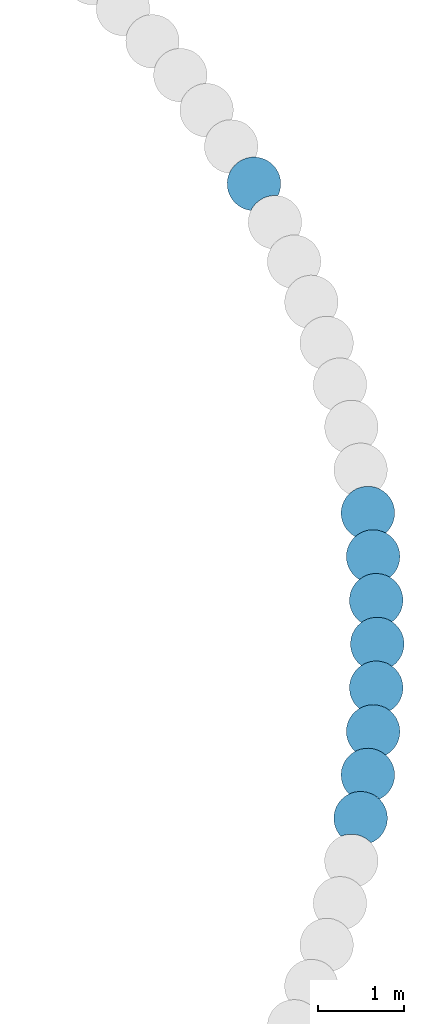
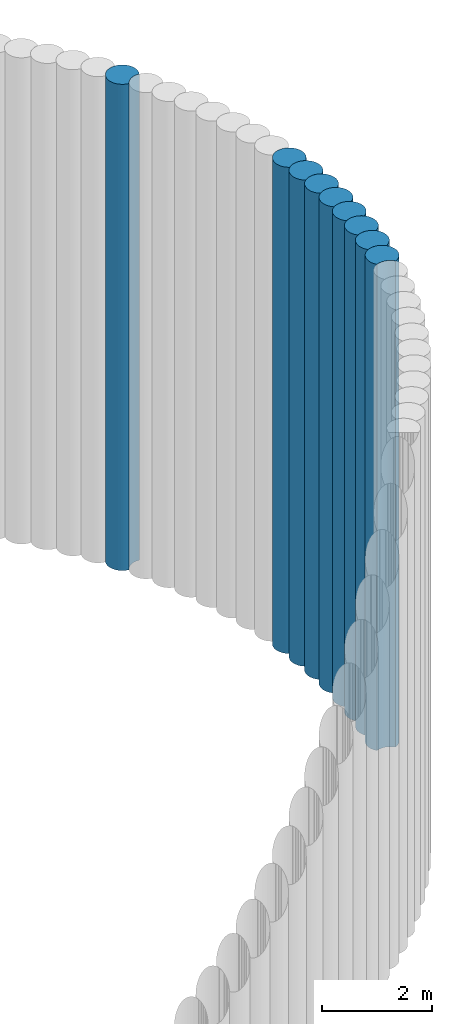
# One storey, part 9 of 16: 9 slabs.
"""IFC2X3 building model written with IfcOpenShell, lengths in centimetres."""

from ifc_helpers import new_model, entity, si_unit, converted_unit, derived_unit, direction, frame, frame_2d, origin, place, context, subcontext, project, spatial, polyline, circle_curve, parameter, trimmed, segment, composite_curve, outline, extrude, material, element, save


model = new_model("IFC2X3")

# Units and contexts
model_context = context("Model", 3, precision=0.001, world=origin(), true_north=direction((6.12303176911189e-17, 1.0)))
body_context = subcontext(model_context, "Body", "Model", "MODEL_VIEW")
ifc_project = project(units=[si_unit("LENGTHUNIT", "METRE", prefix="CENTI"), si_unit("AREAUNIT", "SQUARE_METRE"), si_unit("VOLUMEUNIT", "CUBIC_METRE"), converted_unit("PLANEANGLEUNIT", "DEGREE", entity("IfcRatioMeasure", 0.0174532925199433), si_unit("PLANEANGLEUNIT", "RADIAN"), dimensions=[0, 0, 0, 0, 0, 0, 0]), si_unit("MASSUNIT", "GRAM", prefix="KILO"), derived_unit("MASSDENSITYUNIT", [(si_unit("MASSUNIT", "GRAM", prefix="KILO"), 1), (si_unit("LENGTHUNIT", "METRE"), -3)]), si_unit("TIMEUNIT", "SECOND"), si_unit("FREQUENCYUNIT", "HERTZ"), si_unit("THERMODYNAMICTEMPERATUREUNIT", "DEGREE_CELSIUS"), derived_unit("THERMALTRANSMITTANCEUNIT", [(si_unit("MASSUNIT", "GRAM", prefix="KILO"), 1), (si_unit("THERMODYNAMICTEMPERATUREUNIT", "KELVIN"), -1), (si_unit("TIMEUNIT", "SECOND"), -3)]), derived_unit("VOLUMETRICFLOWRATEUNIT", [(si_unit("LENGTHUNIT", "METRE"), 3), (si_unit("TIMEUNIT", "SECOND"), -1)]), si_unit("ELECTRICCURRENTUNIT", "AMPERE"), si_unit("ELECTRICVOLTAGEUNIT", "VOLT"), si_unit("POWERUNIT", "WATT"), si_unit("FORCEUNIT", "NEWTON", prefix="KILO"), si_unit("ILLUMINANCEUNIT", "LUX"), si_unit("LUMINOUSFLUXUNIT", "LUMEN"), si_unit("LUMINOUSINTENSITYUNIT", "CANDELA"), derived_unit("USERDEFINED", [(si_unit("MASSUNIT", "GRAM", prefix="KILO"), -1), (si_unit("LENGTHUNIT", "METRE"), -2), (si_unit("TIMEUNIT", "SECOND"), 3), (si_unit("LUMINOUSFLUXUNIT", "LUMEN"), 1)]), derived_unit("LINEARVELOCITYUNIT", [(si_unit("LENGTHUNIT", "METRE"), 1), (si_unit("TIMEUNIT", "SECOND"), -1)]), si_unit("PRESSUREUNIT", "PASCAL"), derived_unit("USERDEFINED", [(si_unit("LENGTHUNIT", "METRE"), -2), (si_unit("MASSUNIT", "GRAM", prefix="KILO"), 1), (si_unit("TIMEUNIT", "SECOND"), -2)])], contexts=[model_context])

# Site, building, storey
site_placement = place(None, origin())
site = spatial("IfcSite", under=ifc_project, at=site_placement, Name="Default", CompositionType="ELEMENT")
building_placement = place(site_placement, origin())
building = spatial("IfcBuilding", under=site, at=building_placement, CompositionType="ELEMENT")
storey_placement = place(building_placement, frame((0.0, 0.0, -984.0)))
storey = spatial("IfcBuildingStorey", under=building, at=storey_placement, Name="Niveau Fond de fosse", CompositionType="ELEMENT", Elevation=-984.000000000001)

# Slabs
ifc_material = material(Name="Maçonnerie - Béton coulé sur place")
slab_1_placement = place(storey_placement, origin())
element("IfcSlab", 1, at=slab_1_placement, inside=storey, material=ifc_material, Name="Pieu béton - JBTP:600mm 2", ObjectType="Pieu béton - JBTP:600mm 2", PredefinedType="BASESLAB", context=body_context, shape_type="SweptSolid", body=[
    extrude(outline(composite_curve([segment(trimmed(circle_curve(frame_2d((1.18354648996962, -14.7318661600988), x_axis=(1.0, 0.0)), 30.9999999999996), [parameter(180.0)], [parameter(207.444291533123)], True, "PARAMETER"), True, "CONTINUOUS"), segment(trimmed(circle_curve(frame_2d((-22.223663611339, -59.7464676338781), x_axis=(0.998867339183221, -0.0475819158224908)), 30.9999999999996), [parameter(30.1715642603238)], [parameter(100.334884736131)], True, "PARAMETER"), False, "CONTINUOUS"), segment(trimmed(circle_curve(frame_2d((1.18354648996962, -14.7318661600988), x_axis=(1.0, 0.0)), 30.9999999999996), [parameter(277.607612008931)], [parameter(4.07110999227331e-13)], True, "PARAMETER"), True, "CONTINUOUS"), segment(polyline([(32.183546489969, -14.7318661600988), (31.7068413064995, -9.31628922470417)]), True, "CONTINUOUS"), segment(polyline([(31.7068413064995, -9.31628922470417), (30.2921459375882, -4.06934121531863)]), True, "CONTINUOUS"), segment(polyline([(30.2921459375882, -4.06934121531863), (27.9815446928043, 0.850722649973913)]), True, "CONTINUOUS"), segment(polyline([(27.9815446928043, 0.850722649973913), (24.8625540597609, 5.27574740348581)]), True, "CONTINUOUS"), segment(polyline([(24.8625540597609, 5.27574740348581), (21.019640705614, 9.09100869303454)]), True, "CONTINUOUS"), segment(polyline([(21.019640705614, 9.09100869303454), (16.5713553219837, 12.1793831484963)]), True, "CONTINUOUS"), segment(polyline([(16.5713553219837, 12.1793831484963), (11.6531207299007, 14.4466878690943)]), True, "CONTINUOUS"), segment(polyline([(11.6531207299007, 14.4466878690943), (6.4146529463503, 15.8235838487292)]), True, "CONTINUOUS"), segment(polyline([(6.4146529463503, 15.8235838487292), (1.01547753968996, 16.2676782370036)]), True, "CONTINUOUS"), segment(polyline([(1.01547753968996, 16.2676782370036), (-4.38028118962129, 15.7646561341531)]), True, "CONTINUOUS"), segment(polyline([(-4.38028118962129, 15.7646561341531), (-9.56967916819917, 14.3433490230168)]), True, "CONTINUOUS"), segment(polyline([(-9.56967916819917, 14.3433490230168), (-14.4353628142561, 12.0459170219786)]), True, "CONTINUOUS"), segment(polyline([(-14.4353628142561, 12.0459170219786), (-18.830029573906, 8.9421020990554)]), True, "CONTINUOUS"), segment(polyline([(-18.830029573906, 8.9421020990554), (-22.6217091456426, 5.12536940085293)]), True, "CONTINUOUS"), segment(polyline([(-22.6217091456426, 5.12536940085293), (-25.6964633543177, 0.710448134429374)]), True, "CONTINUOUS"), segment(polyline([(-25.6964633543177, 0.710448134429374), (-27.9617477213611, -4.170056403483)]), True, "CONTINUOUS"), segment(polyline([(-27.9617477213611, -4.170056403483), (-29.3490361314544, -9.36890070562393)]), True, "CONTINUOUS"), segment(polyline([(-29.3490361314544, -9.36890070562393), (-29.8164535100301, -14.7318661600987)]), True, "CONTINUOUS")], self_intersect=False)), frame((1041.7309928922, -187.835761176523, -300.0), z_axis=(0.0, 0.0, 1.0), x_axis=(0.965010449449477, 0.262211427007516, 0.0)), (0.0, 0.0, 1.0), 1084.0),
])
slab_2_placement = place(storey_placement, origin())
element("IfcSlab", 2, at=slab_2_placement, inside=storey, material=ifc_material, Name="Pieu béton - JBTP:600mm 2", ObjectType="Pieu béton - JBTP:600mm 2", PredefinedType="BASESLAB", context=body_context, shape_type="SweptSolid", body=[
    extrude(outline(composite_curve([segment(trimmed(circle_curve(frame_2d((1.1835464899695, -14.7318661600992), x_axis=(1.0, 0.0)), 30.9999999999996), [parameter(180.0)], [parameter(207.444291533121)], True, "PARAMETER"), True, "CONTINUOUS"), segment(trimmed(circle_curve(frame_2d((-22.2236636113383, -59.746467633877), x_axis=(0.998867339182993, -0.0475819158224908)), 30.9999999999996), [parameter(30.1715642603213)], [parameter(100.334884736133)], True, "PARAMETER"), False, "CONTINUOUS"), segment(trimmed(circle_curve(frame_2d((1.1835464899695, -14.7318661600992), x_axis=(1.0, 0.0)), 30.9999999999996), [parameter(277.607612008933)], [parameter(4.07110999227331e-13)], True, "PARAMETER"), True, "CONTINUOUS"), segment(polyline([(32.1835464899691, -14.7318661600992), (31.7068413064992, -9.31628922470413)]), True, "CONTINUOUS"), segment(polyline([(31.7068413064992, -9.31628922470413), (30.292145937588, -4.0693412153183)]), True, "CONTINUOUS"), segment(polyline([(30.292145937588, -4.0693412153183), (27.9815446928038, 0.850722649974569)]), True, "CONTINUOUS"), segment(polyline([(27.9815446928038, 0.850722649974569), (24.8625540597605, 5.27574740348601)]), True, "CONTINUOUS"), segment(polyline([(24.8625540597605, 5.27574740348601), (21.0196407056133, 9.09100869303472)]), True, "CONTINUOUS"), segment(polyline([(21.0196407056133, 9.09100869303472), (16.5713553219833, 12.1793831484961)]), True, "CONTINUOUS"), segment(polyline([(16.5713553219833, 12.1793831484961), (11.6531207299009, 14.4466878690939)]), True, "CONTINUOUS"), segment(polyline([(11.6531207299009, 14.4466878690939), (6.41465294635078, 15.8235838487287)]), True, "CONTINUOUS"), segment(polyline([(6.41465294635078, 15.8235838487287), (1.01547753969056, 16.2676782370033)]), True, "CONTINUOUS"), segment(polyline([(1.01547753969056, 16.2676782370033), (-4.3802811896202, 15.7646561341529)]), True, "CONTINUOUS"), segment(polyline([(-4.3802811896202, 15.7646561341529), (-9.56967916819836, 14.3433490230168)]), True, "CONTINUOUS"), segment(polyline([(-9.56967916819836, 14.3433490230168), (-14.4353628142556, 12.0459170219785)]), True, "CONTINUOUS"), segment(polyline([(-14.4353628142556, 12.0459170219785), (-18.8300295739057, 8.94210209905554)]), True, "CONTINUOUS"), segment(polyline([(-18.8300295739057, 8.94210209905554), (-22.6217091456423, 5.12536940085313)]), True, "CONTINUOUS"), segment(polyline([(-22.6217091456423, 5.12536940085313), (-25.6964633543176, 0.710448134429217)]), True, "CONTINUOUS"), segment(polyline([(-25.6964633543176, 0.710448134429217), (-27.9617477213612, -4.17005640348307)]), True, "CONTINUOUS"), segment(polyline([(-27.9617477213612, -4.17005640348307), (-29.3490361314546, -9.36890070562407)]), True, "CONTINUOUS"), segment(polyline([(-29.3490361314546, -9.36890070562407), (-29.8164535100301, -14.7318661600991)]), True, "CONTINUOUS")], self_intersect=False)), frame((1049.48865039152, -138.055450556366, -300.0), z_axis=(0.0, 0.0, 1.0), x_axis=(0.951440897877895, 0.307831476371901, 0.0)), (0.0, 0.0, 1.0), 1084.0),
])
slab_3_placement = place(storey_placement, origin())
element("IfcSlab", 3, at=slab_3_placement, inside=storey, material=ifc_material, Name="Pieu béton - JBTP:600mm 2", ObjectType="Pieu béton - JBTP:600mm 2", PredefinedType="BASESLAB", context=body_context, shape_type="SweptSolid", body=[
    extrude(outline(composite_curve([segment(trimmed(circle_curve(frame_2d((1.18354648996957, -14.7318661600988), x_axis=(1.0, 0.0)), 30.9999999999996), [parameter(180.0)], [parameter(207.444291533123)], True, "PARAMETER"), True, "CONTINUOUS"), segment(trimmed(circle_curve(frame_2d((-22.2236636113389, -59.7464676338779), x_axis=(0.998867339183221, -0.0475819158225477)), 30.9999999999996), [parameter(30.1715642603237)], [parameter(100.334884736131)], True, "PARAMETER"), False, "CONTINUOUS"), segment(trimmed(circle_curve(frame_2d((1.18354648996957, -14.7318661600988), x_axis=(1.0, 0.0)), 30.9999999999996), [parameter(277.607612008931)], [parameter(4.07110999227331e-13)], True, "PARAMETER"), True, "CONTINUOUS"), segment(polyline([(32.183546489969, -14.7318661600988), (31.7068413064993, -9.31628922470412)]), True, "CONTINUOUS"), segment(polyline([(31.7068413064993, -9.31628922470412), (30.2921459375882, -4.06934121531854)]), True, "CONTINUOUS"), segment(polyline([(30.2921459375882, -4.06934121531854), (27.9815446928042, 0.85072264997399)]), True, "CONTINUOUS"), segment(polyline([(27.9815446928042, 0.85072264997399), (24.8625540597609, 5.27574740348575)]), True, "CONTINUOUS"), segment(polyline([(24.8625540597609, 5.27574740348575), (21.0196407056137, 9.09100869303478)]), True, "CONTINUOUS"), segment(polyline([(21.0196407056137, 9.09100869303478), (16.5713553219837, 12.1793831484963)]), True, "CONTINUOUS"), segment(polyline([(16.5713553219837, 12.1793831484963), (11.6531207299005, 14.4466878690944)]), True, "CONTINUOUS"), segment(polyline([(11.6531207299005, 14.4466878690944), (6.41465294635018, 15.8235838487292)]), True, "CONTINUOUS"), segment(polyline([(6.41465294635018, 15.8235838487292), (1.01547753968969, 16.2676782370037)]), True, "CONTINUOUS"), segment(polyline([(1.01547753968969, 16.2676782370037), (-4.3802811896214, 15.7646561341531)]), True, "CONTINUOUS"), segment(polyline([(-4.3802811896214, 15.7646561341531), (-9.56967916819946, 14.3433490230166)]), True, "CONTINUOUS"), segment(polyline([(-9.56967916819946, 14.3433490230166), (-14.4353628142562, 12.0459170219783)]), True, "CONTINUOUS"), segment(polyline([(-14.4353628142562, 12.0459170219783), (-18.830029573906, 8.94210209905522)]), True, "CONTINUOUS"), segment(polyline([(-18.830029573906, 8.94210209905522), (-22.6217091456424, 5.12536940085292)]), True, "CONTINUOUS"), segment(polyline([(-22.6217091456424, 5.12536940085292), (-25.6964633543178, 0.710448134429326)]), True, "CONTINUOUS"), segment(polyline([(-25.6964633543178, 0.710448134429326), (-27.9617477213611, -4.17005640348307)]), True, "CONTINUOUS"), segment(polyline([(-27.9617477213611, -4.17005640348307), (-29.3490361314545, -9.36890070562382)]), True, "CONTINUOUS"), segment(polyline([(-29.3490361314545, -9.36890070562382), (-29.81645351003, -14.7318661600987)]), True, "CONTINUOUS")], self_intersect=False)), frame((1054.86887854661, -87.9623999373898, -300.0), z_axis=(0.0, 0.0, 1.0), x_axis=(0.935716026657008, 0.352754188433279, 0.0)), (0.0, 0.0, 1.0), 1084.0),
])
slab_4_placement = place(storey_placement, origin())
element("IfcSlab", 4, at=slab_4_placement, inside=storey, material=ifc_material, Name="Pieu béton - JBTP:600mm 2", ObjectType="Pieu béton - JBTP:600mm 2", PredefinedType="BASESLAB", context=body_context, shape_type="SweptSolid", body=[
    extrude(outline(composite_curve([segment(trimmed(circle_curve(frame_2d((1.18354648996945, -14.7318661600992), x_axis=(1.0, 0.0)), 30.9999999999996), [parameter(180.0)], [parameter(207.444291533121)], True, "PARAMETER"), True, "CONTINUOUS"), segment(trimmed(circle_curve(frame_2d((-22.2236636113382, -59.7464676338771), x_axis=(0.998867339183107, -0.047581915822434)), 30.9999999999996), [parameter(30.1715642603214)], [parameter(100.334884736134)], True, "PARAMETER"), False, "CONTINUOUS"), segment(trimmed(circle_curve(frame_2d((1.18354648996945, -14.7318661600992), x_axis=(1.0, 0.0)), 30.9999999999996), [parameter(277.607612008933)], [parameter(4.07110999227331e-13)], True, "PARAMETER"), True, "CONTINUOUS"), segment(polyline([(32.1835464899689, -14.7318661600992), (31.706841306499, -9.31628922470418)]), True, "CONTINUOUS"), segment(polyline([(31.706841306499, -9.31628922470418), (30.2921459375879, -4.06934121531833)]), True, "CONTINUOUS"), segment(polyline([(30.2921459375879, -4.06934121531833), (27.9815446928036, 0.850722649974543)]), True, "CONTINUOUS"), segment(polyline([(27.9815446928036, 0.850722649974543), (24.8625540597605, 5.27574740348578)]), True, "CONTINUOUS"), segment(polyline([(24.8625540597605, 5.27574740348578), (21.0196407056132, 9.09100869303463)]), True, "CONTINUOUS"), segment(polyline([(21.0196407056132, 9.09100869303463), (16.5713553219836, 12.1793831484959)]), True, "CONTINUOUS"), segment(polyline([(16.5713553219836, 12.1793831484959), (11.6531207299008, 14.4466878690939)]), True, "CONTINUOUS"), segment(polyline([(11.6531207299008, 14.4466878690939), (6.41465294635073, 15.8235838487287)]), True, "CONTINUOUS"), segment(polyline([(6.41465294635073, 15.8235838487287), (1.01547753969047, 16.2676782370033)]), True, "CONTINUOUS"), segment(polyline([(1.01547753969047, 16.2676782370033), (-4.38028118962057, 15.764656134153)]), True, "CONTINUOUS"), segment(polyline([(-4.38028118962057, 15.764656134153), (-9.56967916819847, 14.3433490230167)]), True, "CONTINUOUS"), segment(polyline([(-9.56967916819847, 14.3433490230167), (-14.4353628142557, 12.0459170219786)]), True, "CONTINUOUS"), segment(polyline([(-14.4353628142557, 12.0459170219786), (-18.8300295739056, 8.94210209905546)]), True, "CONTINUOUS"), segment(polyline([(-18.8300295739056, 8.94210209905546), (-22.6217091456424, 5.1253694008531)]), True, "CONTINUOUS"), segment(polyline([(-22.6217091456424, 5.1253694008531), (-25.6964633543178, 0.71044813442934)]), True, "CONTINUOUS"), segment(polyline([(-25.6964633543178, 0.71044813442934), (-27.9617477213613, -4.17005640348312)]), True, "CONTINUOUS"), segment(polyline([(-27.9617477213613, -4.17005640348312), (-29.3490361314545, -9.36890070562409)]), True, "CONTINUOUS"), segment(polyline([(-29.3490361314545, -9.36890070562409), (-29.8164535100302, -14.7318661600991)]), True, "CONTINUOUS")], self_intersect=False)), frame((1057.85948941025, -37.6700861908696, -300.0), z_axis=(0.0, 0.0, 1.0), x_axis=(0.917871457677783, 0.396877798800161, 0.0)), (0.0, 0.0, 1.0), 1084.0),
])
slab_5_placement = place(storey_placement, origin())
element("IfcSlab", 5, at=slab_5_placement, inside=storey, material=ifc_material, Name="Pieu béton - JBTP:600mm 2", ObjectType="Pieu béton - JBTP:600mm 2", PredefinedType="BASESLAB", context=body_context, shape_type="SweptSolid", body=[
    extrude(outline(composite_curve([segment(trimmed(circle_curve(frame_2d((1.18354648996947, -14.7318661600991), x_axis=(1.0, 0.0)), 30.9999999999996), [parameter(180.0)], [parameter(207.444291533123)], True, "PARAMETER"), True, "CONTINUOUS"), segment(trimmed(circle_curve(frame_2d((-22.2236636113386, -59.7464676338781), x_axis=(0.998867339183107, -0.0475819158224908)), 30.9999999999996), [parameter(30.1715642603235)], [parameter(100.334884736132)], True, "PARAMETER"), False, "CONTINUOUS"), segment(trimmed(circle_curve(frame_2d((1.18354648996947, -14.7318661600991), x_axis=(1.0, 0.0)), 30.9999999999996), [parameter(277.607612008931)], [parameter(4.07110999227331e-13)], True, "PARAMETER"), True, "CONTINUOUS"), segment(polyline([(32.1835464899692, -14.7318661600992), (31.7068413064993, -9.31628922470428)]), True, "CONTINUOUS"), segment(polyline([(31.7068413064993, -9.31628922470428), (30.2921459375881, -4.06934121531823)]), True, "CONTINUOUS"), segment(polyline([(30.2921459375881, -4.06934121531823), (27.9815446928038, 0.850722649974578)]), True, "CONTINUOUS"), segment(polyline([(27.9815446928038, 0.850722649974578), (24.8625540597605, 5.27574740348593)]), True, "CONTINUOUS"), segment(polyline([(24.8625540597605, 5.27574740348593), (21.0196407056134, 9.0910086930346)]), True, "CONTINUOUS"), segment(polyline([(21.0196407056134, 9.0910086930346), (16.5713553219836, 12.1793831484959)]), True, "CONTINUOUS"), segment(polyline([(16.5713553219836, 12.1793831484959), (11.6531207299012, 14.4466878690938)]), True, "CONTINUOUS"), segment(polyline([(11.6531207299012, 14.4466878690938), (6.41465294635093, 15.8235838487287)]), True, "CONTINUOUS"), segment(polyline([(6.41465294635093, 15.8235838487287), (1.01547753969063, 16.2676782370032)]), True, "CONTINUOUS"), segment(polyline([(1.01547753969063, 16.2676782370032), (-4.38028118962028, 15.7646561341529)]), True, "CONTINUOUS"), segment(polyline([(-4.38028118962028, 15.7646561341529), (-9.56967916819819, 14.3433490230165)]), True, "CONTINUOUS"), segment(polyline([(-9.56967916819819, 14.3433490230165), (-14.4353628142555, 12.0459170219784)]), True, "CONTINUOUS"), segment(polyline([(-14.4353628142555, 12.0459170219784), (-18.8300295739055, 8.94210209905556)]), True, "CONTINUOUS"), segment(polyline([(-18.8300295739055, 8.94210209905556), (-22.6217091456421, 5.12536940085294)]), True, "CONTINUOUS"), segment(polyline([(-22.6217091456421, 5.12536940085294), (-25.6964633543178, 0.710448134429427)]), True, "CONTINUOUS"), segment(polyline([(-25.6964633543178, 0.710448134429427), (-27.961747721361, -4.17005640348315)]), True, "CONTINUOUS"), segment(polyline([(-27.961747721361, -4.17005640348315), (-29.3490361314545, -9.36890070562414)]), True, "CONTINUOUS"), segment(polyline([(-29.3490361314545, -9.36890070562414), (-29.81645351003, -14.7318661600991)]), True, "CONTINUOUS")], self_intersect=False)), frame((1058.45370828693, 12.707562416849, -300.0), z_axis=(0.0, 0.0, 1.0), x_axis=(0.897947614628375, 0.440102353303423, 0.0)), (0.0, 0.0, 1.0), 1084.0),
])
slab_6_placement = place(storey_placement, origin())
element("IfcSlab", 6, at=slab_6_placement, inside=storey, material=ifc_material, Name="Pieu béton - JBTP:600mm 2", ObjectType="Pieu béton - JBTP:600mm 2", PredefinedType="BASESLAB", context=body_context, shape_type="SweptSolid", body=[
    extrude(outline(composite_curve([segment(trimmed(circle_curve(frame_2d((1.18354648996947, -14.7318661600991), x_axis=(1.0, 0.0)), 30.9999999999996), [parameter(180.0)], [parameter(207.444291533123)], True, "PARAMETER"), True, "CONTINUOUS"), segment(trimmed(circle_curve(frame_2d((-22.2236636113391, -59.7464676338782), x_axis=(0.998867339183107, -0.047581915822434)), 30.9999999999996), [parameter(30.1715642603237)], [parameter(100.334884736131)], True, "PARAMETER"), False, "CONTINUOUS"), segment(trimmed(circle_curve(frame_2d((1.18354648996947, -14.7318661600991), x_axis=(1.0, 0.0)), 30.9999999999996), [parameter(277.607612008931)], [parameter(4.07110999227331e-13)], True, "PARAMETER"), True, "CONTINUOUS"), segment(polyline([(32.1835464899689, -14.731866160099), (31.706841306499, -9.31628922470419)]), True, "CONTINUOUS"), segment(polyline([(31.706841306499, -9.31628922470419), (30.292145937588, -4.06934121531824)]), True, "CONTINUOUS"), segment(polyline([(30.292145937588, -4.06934121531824), (27.9815446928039, 0.850722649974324)]), True, "CONTINUOUS"), segment(polyline([(27.9815446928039, 0.850722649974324), (24.8625540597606, 5.27574740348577)]), True, "CONTINUOUS"), segment(polyline([(24.8625540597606, 5.27574740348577), (21.0196407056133, 9.09100869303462)]), True, "CONTINUOUS"), segment(polyline([(21.0196407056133, 9.09100869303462), (16.5713553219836, 12.179383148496)]), True, "CONTINUOUS"), segment(polyline([(16.5713553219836, 12.179383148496), (11.6531207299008, 14.446687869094)]), True, "CONTINUOUS"), segment(polyline([(11.6531207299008, 14.446687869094), (6.41465294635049, 15.8235838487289)]), True, "CONTINUOUS"), segment(polyline([(6.41465294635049, 15.8235838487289), (1.01547753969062, 16.2676782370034)]), True, "CONTINUOUS"), segment(polyline([(1.01547753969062, 16.2676782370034), (-4.38028118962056, 15.7646561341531)]), True, "CONTINUOUS"), segment(polyline([(-4.38028118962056, 15.7646561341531), (-9.56967916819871, 14.3433490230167)]), True, "CONTINUOUS"), segment(polyline([(-9.56967916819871, 14.3433490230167), (-14.4353628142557, 12.0459170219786)]), True, "CONTINUOUS"), segment(polyline([(-14.4353628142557, 12.0459170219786), (-18.8300295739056, 8.94210209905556)]), True, "CONTINUOUS"), segment(polyline([(-18.8300295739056, 8.94210209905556), (-22.6217091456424, 5.12536940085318)]), True, "CONTINUOUS"), segment(polyline([(-22.6217091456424, 5.12536940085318), (-25.6964633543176, 0.710448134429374)]), True, "CONTINUOUS"), segment(polyline([(-25.6964633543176, 0.710448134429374), (-27.9617477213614, -4.17005640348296)]), True, "CONTINUOUS"), segment(polyline([(-27.9617477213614, -4.17005640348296), (-29.3490361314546, -9.368900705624)]), True, "CONTINUOUS"), segment(polyline([(-29.3490361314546, -9.368900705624), (-29.8164535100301, -14.7318661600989)]), True, "CONTINUOUS")], self_intersect=False)), frame((1056.65018907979, 63.0564243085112, -300.0), z_axis=(0.0, 0.0, 1.0), x_axis=(0.875989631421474, 0.482329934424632, 0.0)), (0.0, 0.0, 1.0), 1084.0),
])
slab_7_placement = place(storey_placement, origin())
element("IfcSlab", 7, at=slab_7_placement, inside=storey, material=ifc_material, Name="Pieu béton - JBTP:600mm 2", ObjectType="Pieu béton - JBTP:600mm 2", PredefinedType="BASESLAB", context=body_context, shape_type="SweptSolid", body=[
    extrude(outline(composite_curve([segment(trimmed(circle_curve(frame_2d((1.1835464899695, -14.731866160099), x_axis=(1.0, 0.0)), 30.9999999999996), [parameter(180.0)], [parameter(207.444291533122)], True, "PARAMETER"), True, "CONTINUOUS"), segment(trimmed(circle_curve(frame_2d((-22.223663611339, -59.7464676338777), x_axis=(0.998867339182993, -0.0475819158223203)), 30.9999999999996), [parameter(30.1715642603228)], [parameter(100.334884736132)], True, "PARAMETER"), False, "CONTINUOUS"), segment(trimmed(circle_curve(frame_2d((1.1835464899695, -14.731866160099), x_axis=(1.0, 0.0)), 30.9999999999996), [parameter(277.607612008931)], [parameter(4.07110999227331e-13)], True, "PARAMETER"), True, "CONTINUOUS"), segment(polyline([(32.183546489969, -14.731866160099), (31.7068413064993, -9.31628922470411)]), True, "CONTINUOUS"), segment(polyline([(31.7068413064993, -9.31628922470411), (30.292145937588, -4.06934121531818)]), True, "CONTINUOUS"), segment(polyline([(30.292145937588, -4.06934121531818), (27.9815446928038, 0.850722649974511)]), True, "CONTINUOUS"), segment(polyline([(27.9815446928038, 0.850722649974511), (24.8625540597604, 5.27574740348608)]), True, "CONTINUOUS"), segment(polyline([(24.8625540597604, 5.27574740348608), (21.0196407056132, 9.09100869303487)]), True, "CONTINUOUS"), segment(polyline([(21.0196407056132, 9.09100869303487), (16.5713553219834, 12.1793831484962)]), True, "CONTINUOUS"), segment(polyline([(16.5713553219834, 12.1793831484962), (11.6531207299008, 14.446687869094)]), True, "CONTINUOUS"), segment(polyline([(11.6531207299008, 14.446687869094), (6.4146529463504, 15.823583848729)]), True, "CONTINUOUS"), segment(polyline([(6.4146529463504, 15.823583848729), (1.01547753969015, 16.2676782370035)]), True, "CONTINUOUS"), segment(polyline([(1.01547753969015, 16.2676782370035), (-4.38028118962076, 15.764656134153)]), True, "CONTINUOUS"), segment(polyline([(-4.38028118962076, 15.764656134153), (-9.56967916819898, 14.3433490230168)]), True, "CONTINUOUS"), segment(polyline([(-9.56967916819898, 14.3433490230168), (-14.435362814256, 12.0459170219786)]), True, "CONTINUOUS"), segment(polyline([(-14.435362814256, 12.0459170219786), (-18.8300295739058, 8.94210209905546)]), True, "CONTINUOUS"), segment(polyline([(-18.8300295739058, 8.94210209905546), (-22.6217091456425, 5.12536940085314)]), True, "CONTINUOUS"), segment(polyline([(-22.6217091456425, 5.12536940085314), (-25.6964633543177, 0.710448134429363)]), True, "CONTINUOUS"), segment(polyline([(-25.6964633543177, 0.710448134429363), (-27.9617477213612, -4.17005640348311)]), True, "CONTINUOUS"), segment(polyline([(-27.9617477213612, -4.17005640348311), (-29.3490361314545, -9.36890070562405)]), True, "CONTINUOUS"), segment(polyline([(-29.3490361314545, -9.36890070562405), (-29.8164535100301, -14.7318661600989)]), True, "CONTINUOUS")], self_intersect=False)), frame((1052.4530173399, 113.262443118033, -300.0), z_axis=(0.0, 0.0, 1.0), x_axis=(0.852047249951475, 0.523464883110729, 0.0)), (0.0, 0.0, 1.0), 1084.0),
])
slab_8_placement = place(storey_placement, origin())
element("IfcSlab", 8, at=slab_8_placement, inside=storey, material=ifc_material, Name="Pieu béton - JBTP:600mm 2", ObjectType="Pieu béton - JBTP:600mm 2", PredefinedType="BASESLAB", context=body_context, shape_type="SweptSolid", body=[
    extrude(outline(composite_curve([segment(trimmed(circle_curve(frame_2d((1.18354648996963, -14.7318661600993), x_axis=(1.0, 0.0)), 30.9999999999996), [parameter(180.0)], [parameter(207.444291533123)], True, "PARAMETER"), True, "CONTINUOUS"), segment(trimmed(circle_curve(frame_2d((-22.2236636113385, -59.746467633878), x_axis=(0.998867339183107, -0.0475819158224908)), 30.9999999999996), [parameter(30.1715642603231)], [parameter(100.334884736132)], True, "PARAMETER"), False, "CONTINUOUS"), segment(trimmed(circle_curve(frame_2d((1.18354648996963, -14.7318661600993), x_axis=(1.0, 0.0)), 30.9999999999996), [parameter(277.607612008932)], [parameter(4.07110999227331e-13)], True, "PARAMETER"), True, "CONTINUOUS"), segment(polyline([(32.1835464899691, -14.7318661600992), (31.7068413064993, -9.31628922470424)]), True, "CONTINUOUS"), segment(polyline([(31.7068413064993, -9.31628922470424), (30.2921459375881, -4.0693412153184)]), True, "CONTINUOUS"), segment(polyline([(30.2921459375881, -4.0693412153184), (27.9815446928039, 0.850722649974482)]), True, "CONTINUOUS"), segment(polyline([(27.9815446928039, 0.850722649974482), (24.8625540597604, 5.27574740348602)]), True, "CONTINUOUS"), segment(polyline([(24.8625540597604, 5.27574740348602), (21.0196407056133, 9.09100869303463)]), True, "CONTINUOUS"), segment(polyline([(21.0196407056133, 9.09100869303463), (16.5713553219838, 12.1793831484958)]), True, "CONTINUOUS"), segment(polyline([(16.5713553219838, 12.1793831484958), (11.6531207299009, 14.4466878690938)]), True, "CONTINUOUS"), segment(polyline([(11.6531207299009, 14.4466878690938), (6.41465294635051, 15.8235838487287)]), True, "CONTINUOUS"), segment(polyline([(6.41465294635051, 15.8235838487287), (1.01547753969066, 16.2676782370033)]), True, "CONTINUOUS"), segment(polyline([(1.01547753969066, 16.2676782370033), (-4.3802811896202, 15.7646561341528)]), True, "CONTINUOUS"), segment(polyline([(-4.3802811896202, 15.7646561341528), (-9.56967916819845, 14.3433490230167)]), True, "CONTINUOUS"), segment(polyline([(-9.56967916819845, 14.3433490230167), (-14.4353628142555, 12.0459170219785)]), True, "CONTINUOUS"), segment(polyline([(-14.4353628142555, 12.0459170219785), (-18.8300295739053, 8.94210209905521)]), True, "CONTINUOUS"), segment(polyline([(-18.8300295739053, 8.94210209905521), (-22.6217091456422, 5.12536940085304)]), True, "CONTINUOUS"), segment(polyline([(-22.6217091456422, 5.12536940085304), (-25.6964633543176, 0.710448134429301)]), True, "CONTINUOUS"), segment(polyline([(-25.6964633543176, 0.710448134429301), (-27.9617477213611, -4.1700564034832)]), True, "CONTINUOUS"), segment(polyline([(-27.9617477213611, -4.1700564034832), (-29.3490361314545, -9.36890070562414)]), True, "CONTINUOUS"), segment(polyline([(-29.3490361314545, -9.36890070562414), (-29.8164535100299, -14.7318661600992)]), True, "CONTINUOUS")], self_intersect=False)), frame((1045.87170101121, 163.211886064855, -300.0), z_axis=(0.0, 0.0, 1.0), x_axis=(0.826174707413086, 0.563414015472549, 0.0)), (0.0, 0.0, 1.0), 1084.0),
])
slab_9_placement = place(storey_placement, origin())
element("IfcSlab", 9, at=slab_9_placement, inside=storey, material=ifc_material, Name="Pieu béton - JBTP:600mm 2", ObjectType="Pieu béton - JBTP:600mm 2", PredefinedType="BASESLAB", context=body_context, shape_type="SweptSolid", body=[
    extrude(outline(composite_curve([segment(trimmed(circle_curve(frame_2d((1.18354648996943, -14.7318661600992), x_axis=(1.0, 0.0)), 30.9999999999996), [parameter(180.0)], [parameter(207.444291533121)], True, "PARAMETER"), True, "CONTINUOUS"), segment(trimmed(circle_curve(frame_2d((-22.2236636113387, -59.7464676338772), x_axis=(0.998867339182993, -0.0475819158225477)), 30.9999999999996), [parameter(30.1715642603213)], [parameter(100.334884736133)], True, "PARAMETER"), False, "CONTINUOUS"), segment(trimmed(circle_curve(frame_2d((1.18354648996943, -14.7318661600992), x_axis=(1.0, 0.0)), 30.9999999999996), [parameter(277.607612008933)], [parameter(4.07110999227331e-13)], True, "PARAMETER"), True, "CONTINUOUS"), segment(polyline([(32.1835464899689, -14.7318661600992), (31.7068413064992, -9.31628922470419)]), True, "CONTINUOUS"), segment(polyline([(31.7068413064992, -9.31628922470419), (30.2921459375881, -4.06934121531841)]), True, "CONTINUOUS"), segment(polyline([(30.2921459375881, -4.06934121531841), (27.9815446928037, 0.850722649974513)]), True, "CONTINUOUS"), segment(polyline([(27.9815446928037, 0.850722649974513), (24.8625540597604, 5.27574740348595)]), True, "CONTINUOUS"), segment(polyline([(24.8625540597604, 5.27574740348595), (21.0196407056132, 9.09100869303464)]), True, "CONTINUOUS"), segment(polyline([(21.0196407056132, 9.09100869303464), (16.5713553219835, 12.179383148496)]), True, "CONTINUOUS"), segment(polyline([(16.5713553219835, 12.179383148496), (11.6531207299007, 14.4466878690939)]), True, "CONTINUOUS"), segment(polyline([(11.6531207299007, 14.4466878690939), (6.41465294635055, 15.8235838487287)]), True, "CONTINUOUS"), segment(polyline([(6.41465294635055, 15.8235838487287), (1.01547753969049, 16.2676782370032)]), True, "CONTINUOUS"), segment(polyline([(1.01547753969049, 16.2676782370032), (-4.3802811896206, 15.7646561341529)]), True, "CONTINUOUS"), segment(polyline([(-4.3802811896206, 15.7646561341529), (-9.56967916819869, 14.3433490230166)]), True, "CONTINUOUS"), segment(polyline([(-9.56967916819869, 14.3433490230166), (-14.4353628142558, 12.0459170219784)]), True, "CONTINUOUS"), segment(polyline([(-14.4353628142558, 12.0459170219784), (-18.8300295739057, 8.9421020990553)]), True, "CONTINUOUS"), segment(polyline([(-18.8300295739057, 8.9421020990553), (-22.6217091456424, 5.12536940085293)]), True, "CONTINUOUS"), segment(polyline([(-22.6217091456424, 5.12536940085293), (-25.6964633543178, 0.710448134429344)]), True, "CONTINUOUS"), segment(polyline([(-25.6964633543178, 0.710448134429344), (-27.9617477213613, -4.17005640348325)]), True, "CONTINUOUS"), segment(polyline([(-27.9617477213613, -4.17005640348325), (-29.3490361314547, -9.36890070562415)]), True, "CONTINUOUS"), segment(polyline([(-29.3490361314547, -9.36890070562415), (-29.8164535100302, -14.731866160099)]), True, "CONTINUOUS")], self_intersect=False)), frame((910.29401890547, 540.23192600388, -300.0), z_axis=(0.0, 0.0, 1.0), x_axis=(0.557594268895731, 0.830113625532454, 0.0)), (0.0, 0.0, 1.0), 1084.0),
])

save(model, "model.ifc")
